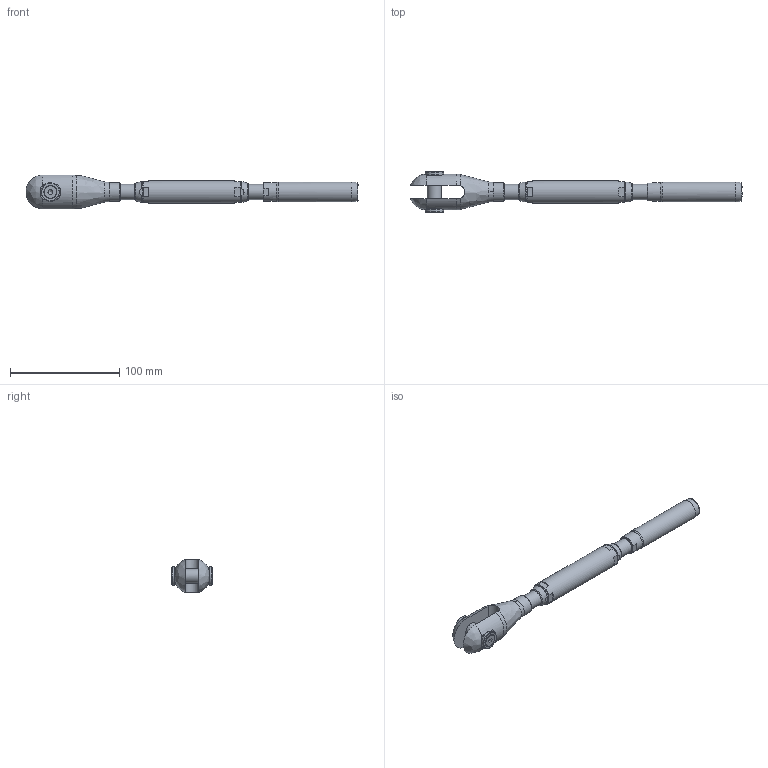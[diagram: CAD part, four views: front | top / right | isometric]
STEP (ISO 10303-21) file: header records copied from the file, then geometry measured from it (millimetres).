
FILE_DESCRIPTION(/* description */ (''),/* implementation_level */ '2;1');
FILE_NAME(/* name */ 'TBC 08_1,4462',/* time_stamp */ '2023-05-23T18:16:58+02:00',/* author */ (''),/* organization */ (''),/* preprocessor_version */ 'ST-DEVELOPER v16.5',/* originating_system */ 'Rhino 7.22',/* authorisation */ '');
FILE_SCHEMA (('CONFIG_CONTROL_DESIGN'));
Length unit declared in the file: millimetre
Products named in the file (1): Document
Bounding box: 304.36 x 37.38 x 30.74 mm (x, y, z)
Volume: 91828.6 mm3; surface area: 36229.3 mm2
Topology: 10 solids, 10 shells, 141 faces, 383 edges, 264 vertices
Faces by surface type: plane 65, bspline 41, cylinder 35
Full cylindrical faces by diameter (mm): 4.917 x2, 6 x2, 6.5 x2, 11.34 x2, 11.835 x4, 13 x1, 14 x4, 17 x3, 17.4 x2, 18.3 x1, 21 x1
Entity records: 5890 total; most frequent: CARTESIAN_POINT 3458, ORIENTED_EDGE 758, EDGE_CURVE 379, VERTEX_POINT 264, EDGE_LOOP 161, B_SPLINE_CURVE_WITH_KNOTS 158, ADVANCED_FACE 141, FACE_OUTER_BOUND 141
